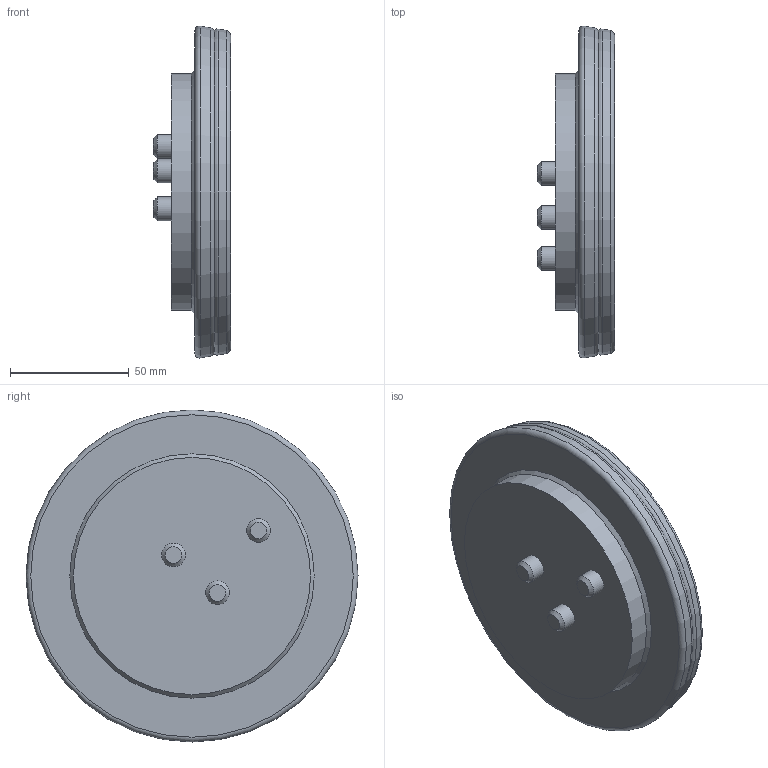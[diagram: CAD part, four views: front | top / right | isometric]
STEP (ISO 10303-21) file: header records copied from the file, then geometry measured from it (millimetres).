
FILE_DESCRIPTION(/* description */ (''),/* implementation_level */ '2;1');
FILE_NAME(/* name */ 'Mid Right.step',/* time_stamp */ '2024-01-09T11:40:26-05:00',/* author */ (''),/* organization */ (''),/* preprocessor_version */ 'ST-DEVELOPER v20',/* originating_system */ 'Autodesk Translation Framework v12.14.0.127',/* authorisation */ '');
FILE_SCHEMA (('AUTOMOTIVE_DESIGN { 1 0 10303 214 3 1 1 }'));
Length unit declared in the file: millimetre
Products named in the file (1): Mid Right
Bounding box: 32.5 x 139.96 x 139.96 mm (x, y, z)
Volume: 243549.8 mm3; surface area: 42524.3 mm2
Topology: 1 solids, 1 shells, 28 faces, 45 edges, 27 vertices
Faces by surface type: plane 10, cylinder 8, cone 6, torus 4
Full cylindrical faces by diameter (mm): 10 x6, 100 x2
Entity records: 688 total; most frequent: DIRECTION 134, CARTESIAN_POINT 101, ORIENTED_EDGE 90, AXIS2_PLACEMENT_3D 60, EDGE_CURVE 45, EDGE_LOOP 36, CIRCLE 31, FACE_OUTER_BOUND 28
